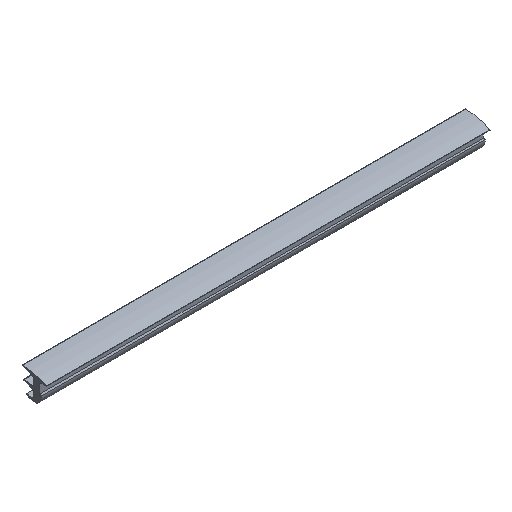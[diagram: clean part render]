
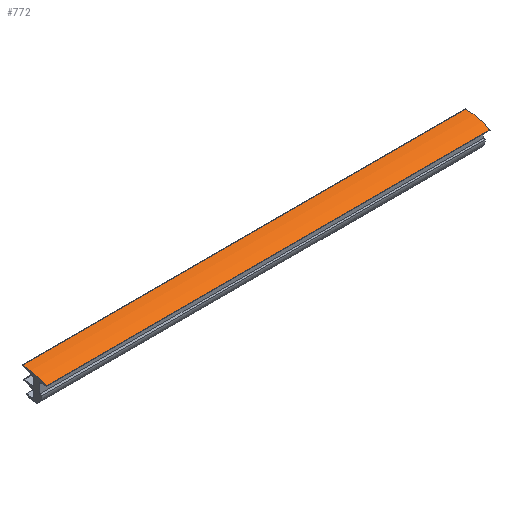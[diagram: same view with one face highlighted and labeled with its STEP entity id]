
A CAD part, isometric view. The second image highlights one B-rep face of the part: STEP entity #772.
In plain terms, the highlighted cylindrical face has radius 29.153 mm (diameter 58.306 mm), a partial arc.
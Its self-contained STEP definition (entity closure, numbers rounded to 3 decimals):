
#33 = DIRECTION ( 'NONE',  ( 0., 0., 1. ) ) ;
#49 = DIRECTION ( 'NONE',  ( -1., 0., 0. ) ) ;
#62 = EDGE_CURVE ( 'NONE', #718, #194, #196, .T. ) ;
#71 = VERTEX_POINT ( 'NONE', #700 ) ;
#131 = DIRECTION ( 'NONE',  ( -1., 0., 0. ) ) ;
#146 = CARTESIAN_POINT ( 'NONE',  ( 200., -1.95, 4.698 ) ) ;
#175 = DIRECTION ( 'NONE',  ( 0., 0., 1. ) ) ;
#194 = VERTEX_POINT ( 'NONE', #444 ) ;
#196 = CIRCLE ( 'NONE', #322, 29.153 ) ;
#228 = EDGE_CURVE ( 'NONE', #71, #684, #668, .T. ) ;
#253 = AXIS2_PLACEMENT_3D ( 'NONE', #288, #872, #966 ) ;
#276 = CARTESIAN_POINT ( 'NONE',  ( 0., 10.618, -21.607 ) ) ;
#288 = CARTESIAN_POINT ( 'NONE',  ( 200., 10.618, -21.607 ) ) ;
#322 = AXIS2_PLACEMENT_3D ( 'NONE', #611, #462, #175 ) ;
#375 = ORIENTED_EDGE ( 'NONE', *, *, #228, .F. ) ;
#386 = CARTESIAN_POINT ( 'NONE',  ( 200., 8.942, 7.498 ) ) ;
#410 = ORIENTED_EDGE ( 'NONE', *, *, #796, .F. ) ;
#422 = VECTOR ( 'NONE', #131, 1000. ) ;
#432 = AXIS2_PLACEMENT_3D ( 'NONE', #276, #49, #33 ) ;
#444 = CARTESIAN_POINT ( 'NONE',  ( 200., 8.942, 7.498 ) ) ;
#454 = ORIENTED_EDGE ( 'NONE', *, *, #62, .T. ) ;
#462 = DIRECTION ( 'NONE',  ( -1., 0., 0. ) ) ;
#507 = CARTESIAN_POINT ( 'NONE',  ( 200., -1.95, 4.698 ) ) ;
#527 = ORIENTED_EDGE ( 'NONE', *, *, #911, .T. ) ;
#533 = DIRECTION ( 'NONE',  ( -1., 0., 0. ) ) ;
#549 = CARTESIAN_POINT ( 'NONE',  ( 0., 8.942, 7.498 ) ) ;
#611 = CARTESIAN_POINT ( 'NONE',  ( 200., 10.618, -21.607 ) ) ;
#664 = FACE_OUTER_BOUND ( 'NONE', #750, .T. ) ;
#668 = CIRCLE ( 'NONE', #432, 29.153 ) ;
#684 = VERTEX_POINT ( 'NONE', #549 ) ;
#700 = CARTESIAN_POINT ( 'NONE',  ( 0., -1.95, 4.698 ) ) ;
#718 = VERTEX_POINT ( 'NONE', #507 ) ;
#736 = LINE ( 'NONE', #146, #422 ) ;
#750 = EDGE_LOOP ( 'NONE', ( #375, #410, #454, #527 ) ) ;
#772 = ADVANCED_FACE ( 'NONE', ( #664 ), #814, .T. ) ;
#796 = EDGE_CURVE ( 'NONE', #718, #71, #736, .T. ) ;
#814 = CYLINDRICAL_SURFACE ( 'NONE', #253, 29.153 ) ;
#842 = VECTOR ( 'NONE', #533, 1000. ) ;
#872 = DIRECTION ( 'NONE',  ( -1., 0., 0. ) ) ;
#891 = LINE ( 'NONE', #386, #842 ) ;
#911 = EDGE_CURVE ( 'NONE', #194, #684, #891, .T. ) ;
#966 = DIRECTION ( 'NONE',  ( 0., 0., 1. ) ) ;
